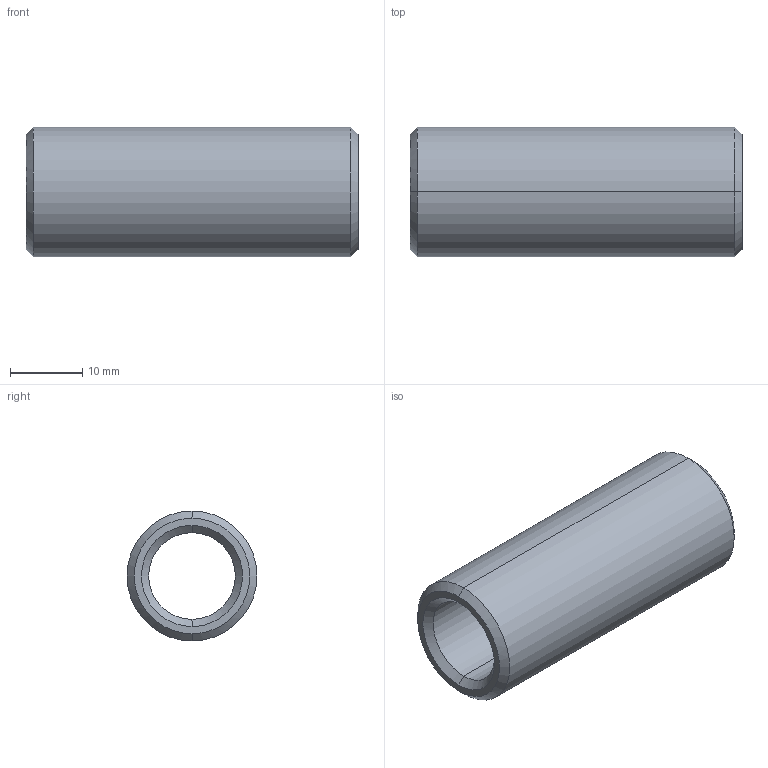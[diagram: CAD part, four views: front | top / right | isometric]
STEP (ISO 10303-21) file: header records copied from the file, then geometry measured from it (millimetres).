
FILE_DESCRIPTION(('CATIA V5 STEP Exchange'),'2;1');
FILE_NAME('C:\Users\Utente\Desktop\IO LAVORO\3D X SITO CF\X SITO\PLASTICA\352\352-12X46.stp','2021-04-10T09:23:19+00:00',('none'),('none'),'CATIA Version 5 Release 20 GA (IN-10)','CATIA V5 STEP AP203','none');
FILE_SCHEMA(('CONFIG_CONTROL_DESIGN'));
Length unit declared in the file: millimetre
Products named in the file (1): 352-12X46
Bounding box: 46 x 18 x 18 mm (x, y, z)
Volume: 6420.4 mm3; surface area: 4512.8 mm2
Topology: 1 solids, 1 shells, 14 faces, 44 edges, 32 vertices
Faces by surface type: cone 6, cylinder 4, plane 2, torus 2
Entity records: 634 total; most frequent: CARTESIAN_POINT 203, ORIENTED_EDGE 88, DIRECTION 64, EDGE_CURVE 44, AXIS2_PLACEMENT_3D 41, VERTEX_POINT 32, CIRCLE 26, EDGE_LOOP 16
